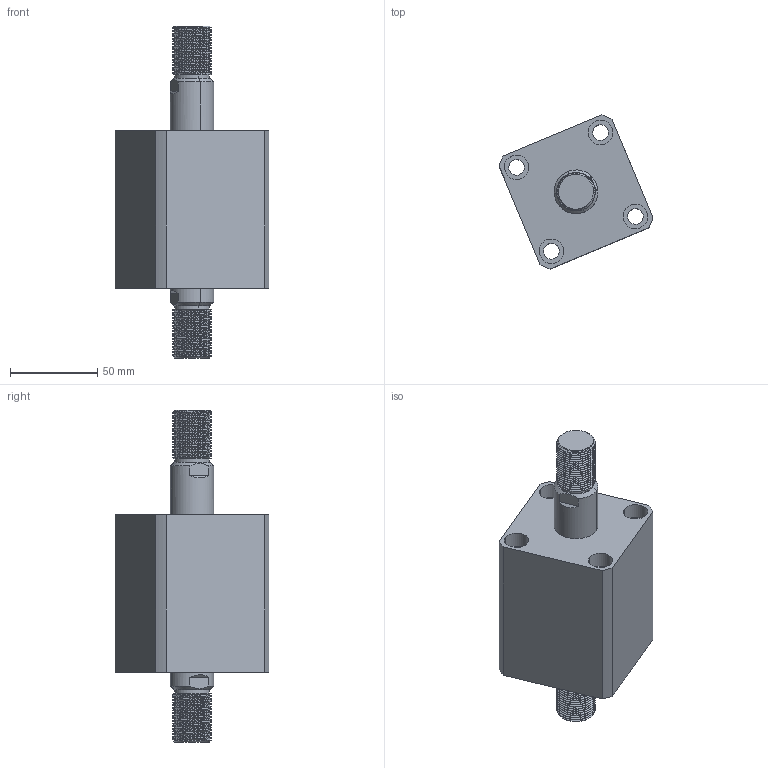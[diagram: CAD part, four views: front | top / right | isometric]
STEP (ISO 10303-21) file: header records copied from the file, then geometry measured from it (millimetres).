
FILE_DESCRIPTION (( 'STEP AP214' ), '1' );
FILE_NAME ('chtb-sw40x20w_asm.STEP', '2018-06-08T10:05:24', ( 'Windows' ), ( 'Microsoft' ), 'SwSTEP 2.0', 'SolidWorks 2015', '' );
FILE_SCHEMA (( 'AUTOMOTIVE_DESIGN' ));
Length unit declared in the file: millimetre
Products named in the file (4): CHTB-SW40X20NHSG; CHTB-SW40X20NBT; CHTB-SD40QG; chtb-sw40x20w_asm
Assembly tree (3 placements, depth 2):
  chtb-sw40x20w_asm
    CHTB-SD40QG
    CHTB-SW40X20NBT
    CHTB-SW40X20NHSG
Bounding box: 88.11 x 88.11 x 190 mm (x, y, z)
Volume: 428634.3 mm3; surface area: 86001.1 mm2
Topology: 3 solids, 3 shells, 254 faces, 680 edges, 452 vertices
Faces by surface type: cylinder 160, plane 46, bspline 18, cone 18, torus 12
Entity records: 17389 total; most frequent: CARTESIAN_POINT 11402, ORIENTED_EDGE 1348, DIRECTION 1094, EDGE_CURVE 674, VERTEX_POINT 452, AXIS2_PLACEMENT_3D 443, EDGE_LOOP 296, ADVANCED_FACE 254
